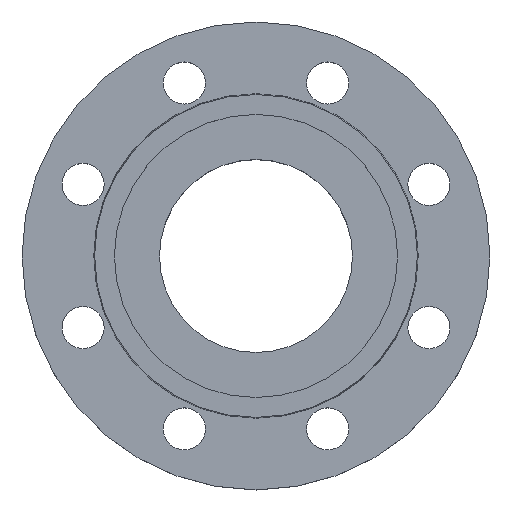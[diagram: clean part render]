
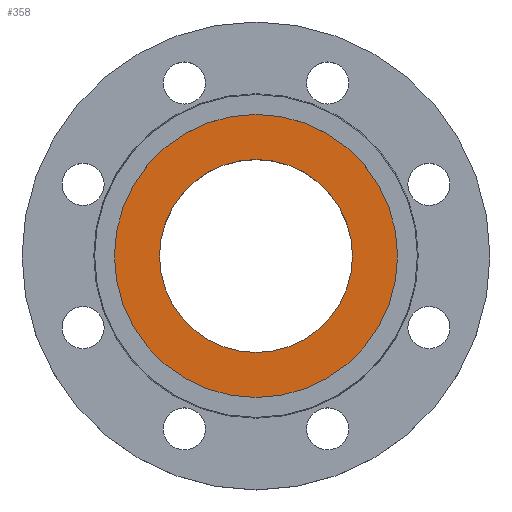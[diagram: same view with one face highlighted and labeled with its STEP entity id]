
A CAD part, top view. The second image highlights one B-rep face of the part: STEP entity #358.
In plain terms, the highlighted planar face has unit normal (0, 0, 1).
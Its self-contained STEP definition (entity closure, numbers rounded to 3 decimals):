
#70 = CARTESIAN_POINT ( 'NONE',  ( 41.25, 0., -4. ) ) ;
#80 = EDGE_CURVE ( 'NONE', #1045, #1050, #222, .T. ) ;
#110 = EDGE_CURVE ( 'NONE', #1050, #1045, #623, .T. ) ;
#131 = CARTESIAN_POINT ( 'NONE',  ( -41.25, 0., -4. ) ) ;
#188 = CARTESIAN_POINT ( 'NONE',  ( -60.5, 0., -4. ) ) ;
#197 = CARTESIAN_POINT ( 'NONE',  ( 60.5, 0., -4. ) ) ;
#222 = CIRCLE ( 'NONE', #227, 60.5 ) ;
#227 = AXIS2_PLACEMENT_3D ( 'NONE', #704, #654, #1034 ) ;
#330 = DIRECTION ( 'NONE',  ( 1., 0., 0. ) ) ;
#331 = DIRECTION ( 'NONE',  ( 0., 0., -1. ) ) ;
#334 = CARTESIAN_POINT ( 'NONE',  ( 0., 0., -4. ) ) ;
#358 = ADVANCED_FACE ( 'NONE', ( #597, #596 ), #595, .T. ) ;
#399 = DIRECTION ( 'NONE',  ( 1., 0., 0. ) ) ;
#400 = DIRECTION ( 'NONE',  ( 0., 0., -1. ) ) ;
#401 = CARTESIAN_POINT ( 'NONE',  ( 0., 0., -4. ) ) ;
#438 = AXIS2_PLACEMENT_3D ( 'NONE', #401, #400, #399 ) ;
#591 = DIRECTION ( 'NONE',  ( 1., 0., 0. ) ) ;
#592 = DIRECTION ( 'NONE',  ( 0., 0., 1. ) ) ;
#594 = CARTESIAN_POINT ( 'NONE',  ( 60.5, 0., -4. ) ) ;
#595 = PLANE ( 'NONE',  #799 ) ;
#596 = FACE_OUTER_BOUND ( 'NONE', #968, .T. ) ;
#597 = FACE_BOUND ( 'NONE', #845, .T. ) ;
#622 = AXIS2_PLACEMENT_3D ( 'NONE', #653, #685, #691 ) ;
#623 = CIRCLE ( 'NONE', #622, 60.5 ) ;
#653 = CARTESIAN_POINT ( 'NONE',  ( 0., 0., -4. ) ) ;
#654 = DIRECTION ( 'NONE',  ( 0., 0., -1. ) ) ;
#685 = DIRECTION ( 'NONE',  ( 0., 0., -1. ) ) ;
#691 = DIRECTION ( 'NONE',  ( -1., 0., 0. ) ) ;
#704 = CARTESIAN_POINT ( 'NONE',  ( 0., 0., -4. ) ) ;
#727 = EDGE_CURVE ( 'NONE', #1083, #1170, #805, .T. ) ;
#763 = ORIENTED_EDGE ( 'NONE', *, *, #727, .T. ) ;
#766 = ORIENTED_EDGE ( 'NONE', *, *, #826, .T. ) ;
#768 = ORIENTED_EDGE ( 'NONE', *, *, #110, .F. ) ;
#769 = ORIENTED_EDGE ( 'NONE', *, *, #80, .F. ) ;
#799 = AXIS2_PLACEMENT_3D ( 'NONE', #594, #592, #591 ) ;
#805 = CIRCLE ( 'NONE', #438, 41.25 ) ;
#826 = EDGE_CURVE ( 'NONE', #1170, #1083, #893, .T. ) ;
#845 = EDGE_LOOP ( 'NONE', ( #763, #766 ) ) ;
#884 = AXIS2_PLACEMENT_3D ( 'NONE', #334, #331, #330 ) ;
#893 = CIRCLE ( 'NONE', #884, 41.25 ) ;
#968 = EDGE_LOOP ( 'NONE', ( #768, #769 ) ) ;
#1034 = DIRECTION ( 'NONE',  ( -1., 0., 0. ) ) ;
#1045 = VERTEX_POINT ( 'NONE', #197 ) ;
#1050 = VERTEX_POINT ( 'NONE', #188 ) ;
#1083 = VERTEX_POINT ( 'NONE', #131 ) ;
#1170 = VERTEX_POINT ( 'NONE', #70 ) ;
